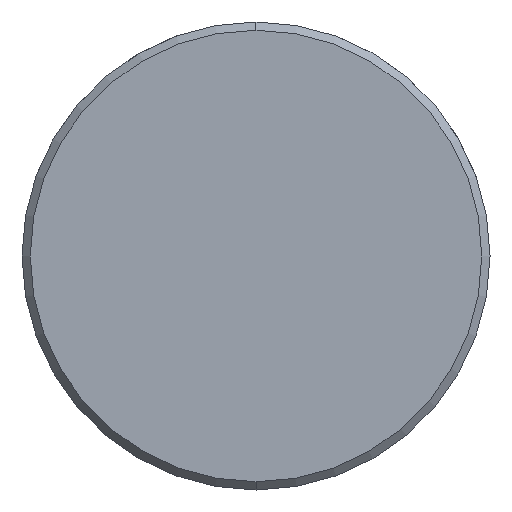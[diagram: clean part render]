
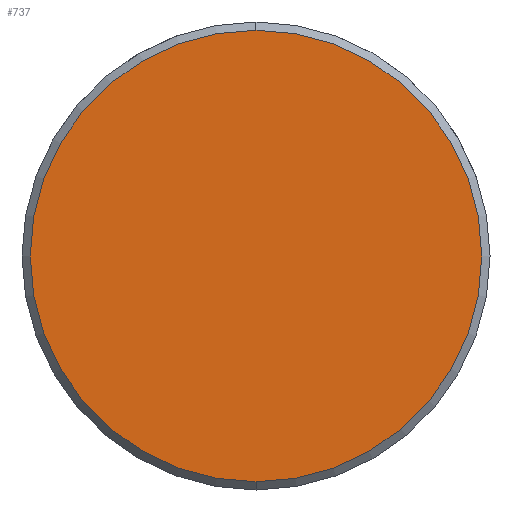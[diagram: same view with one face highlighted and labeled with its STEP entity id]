
A CAD part, left-side view. The second image highlights one B-rep face of the part: STEP entity #737.
In plain terms, the highlighted planar face has unit normal (-1, 0, 0).
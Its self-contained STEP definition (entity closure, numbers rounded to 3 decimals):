
#669=CARTESIAN_POINT('Vertex',(0.,0.,-8.2)) ;
#672=CARTESIAN_POINT('Axis2P3D Location',(0.,0.,0.)) ;
#676=CARTESIAN_POINT('Vertex',(0.,8.2,0.)) ;
#679=CARTESIAN_POINT('Axis2P3D Location',(0.,0.,0.)) ;
#683=CARTESIAN_POINT('Vertex',(0.,0.,8.2)) ;
#705=CARTESIAN_POINT('Axis2P3D Location',(0.,0.,0.)) ;
#709=CARTESIAN_POINT('Vertex',(0.,-8.2,0.)) ;
#712=CARTESIAN_POINT('Axis2P3D Location',(0.,0.,0.)) ;
#726=CARTESIAN_POINT('Axis2P3D Location',(0.,0.,0.)) ;
#673=DIRECTION('Axis2P3D Direction',(1.,0.,-0.)) ;
#680=DIRECTION('Axis2P3D Direction',(1.,0.,-0.)) ;
#706=DIRECTION('Axis2P3D Direction',(1.,0.,-0.)) ;
#713=DIRECTION('Axis2P3D Direction',(1.,0.,-0.)) ;
#727=DIRECTION('Axis2P3D Direction',(1.,0.,-0.)) ;
#728=DIRECTION('Axis2P3D XDirection',(-0.,0.,-1.)) ;
#674=AXIS2_PLACEMENT_3D('Circle Axis2P3D',#672,#673,$) ;
#681=AXIS2_PLACEMENT_3D('Circle Axis2P3D',#679,#680,$) ;
#707=AXIS2_PLACEMENT_3D('Circle Axis2P3D',#705,#706,$) ;
#714=AXIS2_PLACEMENT_3D('Circle Axis2P3D',#712,#713,$) ;
#729=AXIS2_PLACEMENT_3D('Plane Axis2P3D',#726,#727,#728) ;
#732=ORIENTED_EDGE('',*,*,#678,.F.) ;
#733=ORIENTED_EDGE('',*,*,#716,.F.) ;
#734=ORIENTED_EDGE('',*,*,#711,.F.) ;
#735=ORIENTED_EDGE('',*,*,#685,.F.) ;
#737=ADVANCED_FACE('_C30M1460',(#736),#730,.F.) ;
#675=CIRCLE('generated circle',#674,8.2) ;
#682=CIRCLE('generated circle',#681,8.2) ;
#708=CIRCLE('generated circle',#707,8.2) ;
#715=CIRCLE('generated circle',#714,8.2) ;
#678=EDGE_CURVE('',#670,#677,#675,.T.) ;
#685=EDGE_CURVE('',#677,#684,#682,.T.) ;
#711=EDGE_CURVE('',#684,#710,#708,.T.) ;
#716=EDGE_CURVE('',#710,#670,#715,.T.) ;
#731=EDGE_LOOP('',(#732,#733,#734,#735)) ;
#736=FACE_OUTER_BOUND('',#731,.T.) ;
#730=PLANE('Plane',#729) ;
#670=VERTEX_POINT('',#669) ;
#677=VERTEX_POINT('',#676) ;
#684=VERTEX_POINT('',#683) ;
#710=VERTEX_POINT('',#709) ;
